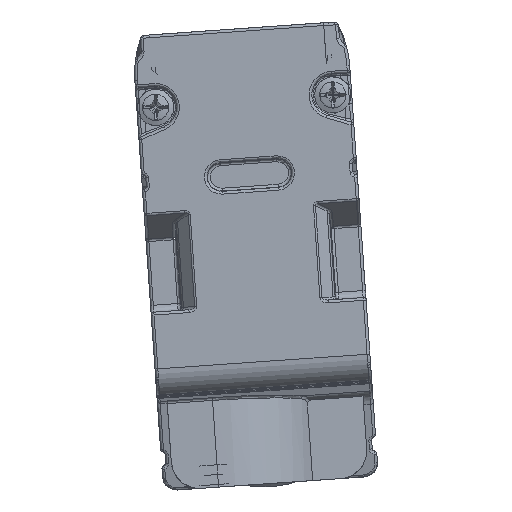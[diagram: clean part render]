
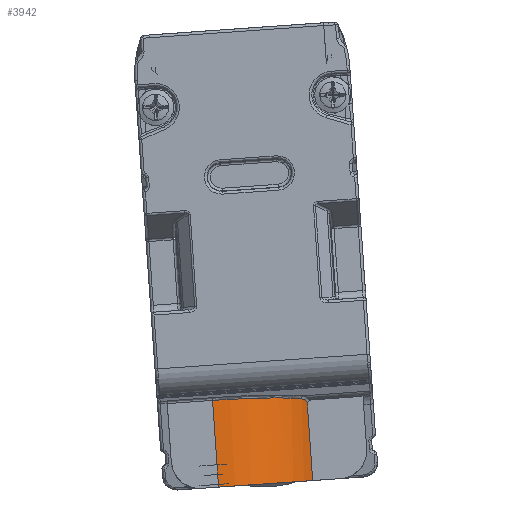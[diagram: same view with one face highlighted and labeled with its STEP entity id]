
A CAD part, front view. The second image highlights one B-rep face of the part: STEP entity #3942.
In plain terms, the highlighted cylindrical face has radius 7.5 mm (diameter 15 mm), a partial arc.
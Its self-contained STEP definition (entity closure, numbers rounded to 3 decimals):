
#465=CYLINDRICAL_SURFACE('',#23538,7.5);
#1113=B_SPLINE_CURVE_WITH_KNOTS('',3,(#42760,#42761,#42762,#42763,#42764,
#42765,#42766),.UNSPECIFIED.,.F.,.F.,(4,3,4),(0.,0.485,1.),.UNSPECIFIED.);
#2352=CIRCLE('',#23537,7.5);
#3942=ADVANCED_FACE('',(#5271),#465,.T.);
#5271=FACE_OUTER_BOUND('',#6345,.T.);
#6345=EDGE_LOOP('',(#11039,#11040,#11041,#11042,#11043));
#6715=ELLIPSE('',#23536,7.53,7.5);
#11039=ORIENTED_EDGE('',*,*,#17513,.T.);
#11040=ORIENTED_EDGE('',*,*,#17514,.T.);
#11041=ORIENTED_EDGE('',*,*,#17515,.T.);
#11042=ORIENTED_EDGE('',*,*,#17516,.T.);
#11043=ORIENTED_EDGE('',*,*,#17517,.F.);
#14251=VERTEX_POINT('',#42758);
#14252=VERTEX_POINT('',#42759);
#14253=VERTEX_POINT('',#42767);
#14254=VERTEX_POINT('',#42769);
#14255=VERTEX_POINT('',#42771);
#17513=EDGE_CURVE('',#14251,#14252,#19547,.T.);
#17514=EDGE_CURVE('',#14252,#14253,#1113,.T.);
#17515=EDGE_CURVE('',#14253,#14254,#6715,.T.);
#17516=EDGE_CURVE('',#14254,#14255,#19548,.T.);
#17517=EDGE_CURVE('',#14251,#14255,#2352,.T.);
#19547=LINE('',#42757,#21165);
#19548=LINE('',#42770,#21166);
#21165=VECTOR('',#29068,1.);
#21166=VECTOR('',#29071,1.);
#23536=AXIS2_PLACEMENT_3D('',#42768,#29069,#29070);
#23537=AXIS2_PLACEMENT_3D('',#42772,#29072,#29073);
#23538=AXIS2_PLACEMENT_3D('',#42773,#29074,#29075);
#29068=DIRECTION('',(-0.07,0.,0.998));
#29069=DIRECTION('',(0.069,-0.089,-0.994));
#29070=DIRECTION('',(0.006,0.996,-0.089));
#29071=DIRECTION('',(0.07,0.,-0.998));
#29072=DIRECTION('',(0.07,0.,-0.998));
#29073=DIRECTION('',(0.998,0.,0.07));
#29074=DIRECTION('',(0.07,0.,-0.998));
#29075=DIRECTION('',(0.,-1.,0.));
#42757=CARTESIAN_POINT('',(-40.701,-680.597,14.888));
#42758=CARTESIAN_POINT('',(-40.701,-680.597,14.888));
#42759=CARTESIAN_POINT('',(-41.088,-680.597,20.435));
#42760=CARTESIAN_POINT('',(-41.088,-680.597,20.435));
#42761=CARTESIAN_POINT('',(-41.139,-680.686,20.528));
#42762=CARTESIAN_POINT('',(-41.198,-680.793,20.603));
#42763=CARTESIAN_POINT('',(-41.263,-680.905,20.654));
#42764=CARTESIAN_POINT('',(-41.332,-681.024,20.708));
#42765=CARTESIAN_POINT('',(-41.408,-681.152,20.738));
#42766=CARTESIAN_POINT('',(-41.487,-681.278,20.743));
#42767=CARTESIAN_POINT('',(-41.487,-681.278,20.743));
#42768=CARTESIAN_POINT('',(-47.816,-677.318,19.944));
#42769=CARTESIAN_POINT('',(-47.863,-684.818,20.616));
#42770=CARTESIAN_POINT('',(-47.667,-684.818,17.815));
#42771=CARTESIAN_POINT('',(-47.43,-684.818,14.418));
#42772=CARTESIAN_POINT('',(-47.43,-677.318,14.418));
#42773=CARTESIAN_POINT('',(-52.434,-677.318,85.982));
